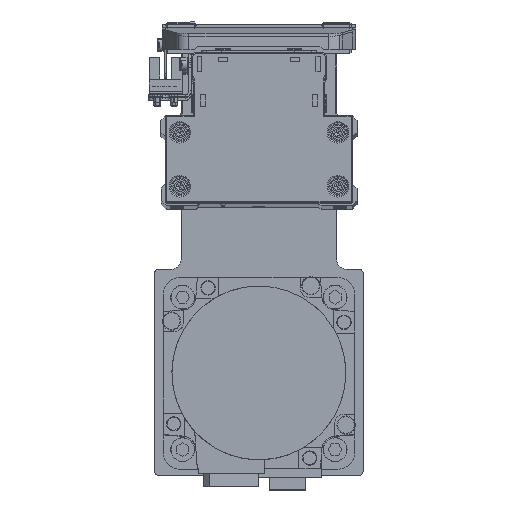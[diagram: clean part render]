
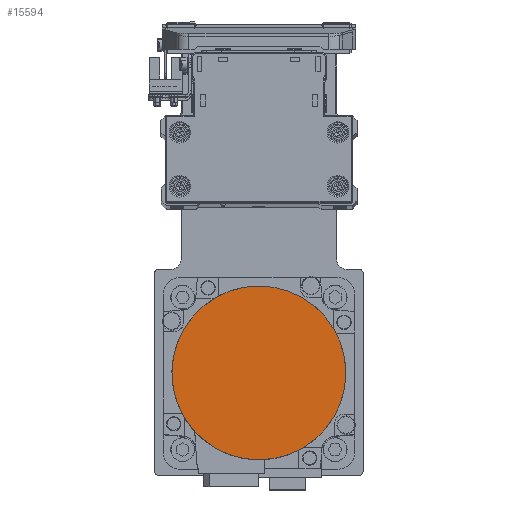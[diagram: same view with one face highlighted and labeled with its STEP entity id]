
A CAD part, top view. The second image highlights one B-rep face of the part: STEP entity #15594.
In plain terms, the highlighted planar face has unit normal (0, 0, 1) as drawn and (0, 0, -1) by its records, which use the part's own axes.
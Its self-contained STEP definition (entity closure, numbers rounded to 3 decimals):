
#248 = AXIS2_PLACEMENT_3D ( 'NONE', #9780, #22087, #34424 ) ;
#604 = DIRECTION ( 'NONE',  ( 0., 0., 1. ) ) ;
#2741 = EDGE_CURVE ( 'NONE', #17052, #34227, #17680, .T. ) ;
#3643 = FACE_OUTER_BOUND ( 'NONE', #4701, .T. ) ;
#4701 = EDGE_LOOP ( 'NONE', ( #28474, #13609 ) ) ;
#5901 = CARTESIAN_POINT ( 'NONE',  ( 0., -36.3, -122.2 ) ) ;
#6689 = CIRCLE ( 'NONE', #29265, 36.3 ) ;
#8045 = DIRECTION ( 'NONE',  ( 0., 0., 1. ) ) ;
#9780 = CARTESIAN_POINT ( 'NONE',  ( 0., 0., -122.2 ) ) ;
#12933 = DIRECTION ( 'NONE',  ( 1., 0., 0. ) ) ;
#13609 = ORIENTED_EDGE ( 'NONE', *, *, #2741, .F. ) ;
#15594 = ADVANCED_FACE ( 'NONE', ( #3643 ), #15963, .F. ) ;
#15963 = PLANE ( 'NONE',  #29566 ) ;
#17052 = VERTEX_POINT ( 'NONE', #5901 ) ;
#17680 = CIRCLE ( 'NONE', #248, 36.3 ) ;
#20352 = DIRECTION ( 'NONE',  ( 0., 1., 0. ) ) ;
#22087 = DIRECTION ( 'NONE',  ( 0., 0., 1. ) ) ;
#28285 = CARTESIAN_POINT ( 'NONE',  ( 0., 0., -122.2 ) ) ;
#28474 = ORIENTED_EDGE ( 'NONE', *, *, #39606, .F. ) ;
#29265 = AXIS2_PLACEMENT_3D ( 'NONE', #35723, #8045, #20352 ) ;
#29566 = AXIS2_PLACEMENT_3D ( 'NONE', #28285, #604, #12933 ) ;
#34227 = VERTEX_POINT ( 'NONE', #37582 ) ;
#34424 = DIRECTION ( 'NONE',  ( 0., -1., 0. ) ) ;
#35723 = CARTESIAN_POINT ( 'NONE',  ( 0., 0., -122.2 ) ) ;
#37582 = CARTESIAN_POINT ( 'NONE',  ( 0., 36.3, -122.2 ) ) ;
#39606 = EDGE_CURVE ( 'NONE', #34227, #17052, #6689, .T. ) ;
